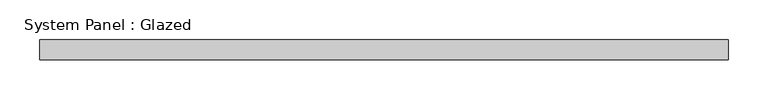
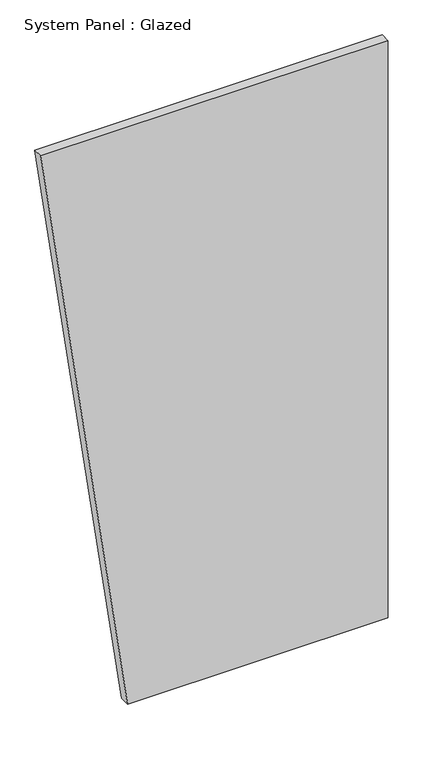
"""IFC4 building model written with IfcOpenShell, lengths in millimetres: plate geometry, System Panel : Glazed."""

from ifc_helpers import new_model, si_unit, frame, origin, place, context, project, spatial, polyline, outline, extrude, source, transform, mapped, element, save


def system_panel_glazed_451cc983(model_context):
    return source(origin(), model_context, "Body", "SweptSolid", [
        extrude(outline(polyline([(0.0, -217.0453553), (0.0, 434.0907104), (1524.0, 434.0907104), (1524.0, -434.0907104), (0.0, -217.0453553)])), frame((0.0, 19.05, 0.0), z_axis=(0.0, 1.0, 0.0), x_axis=(0.0, 0.0, 1.0)), (0.0, 0.0, 1.0), 25.4),
    ])


if __name__ == "__main__":
    model = new_model("IFC4")
    model_context = context("Model", 3, world=origin())
    ifc_project = project(units=[si_unit("LENGTHUNIT", "METRE", prefix="MILLI")], contexts=[model_context])
    site = spatial("IfcSite", under=ifc_project)
    building = spatial("IfcBuilding", under=site)
    placement = place(None, origin())
    system_panel_glazed_shape = system_panel_glazed_451cc983(model_context)
    element("IfcPlate", 1, ObjectType="System Panel : Glazed", at=placement, inside=building, context=model_context, shape_type="MappedRepresentation", body=[
        mapped(system_panel_glazed_shape, transform((0.0, 0.0, 0.0), x_axis=(1.0, 0.0, 0.0), y_axis=(0.0, 1.0, 0.0), z_axis=(0.0, 0.0, 1.0))),
    ])
    save(model, "model.ifc")
